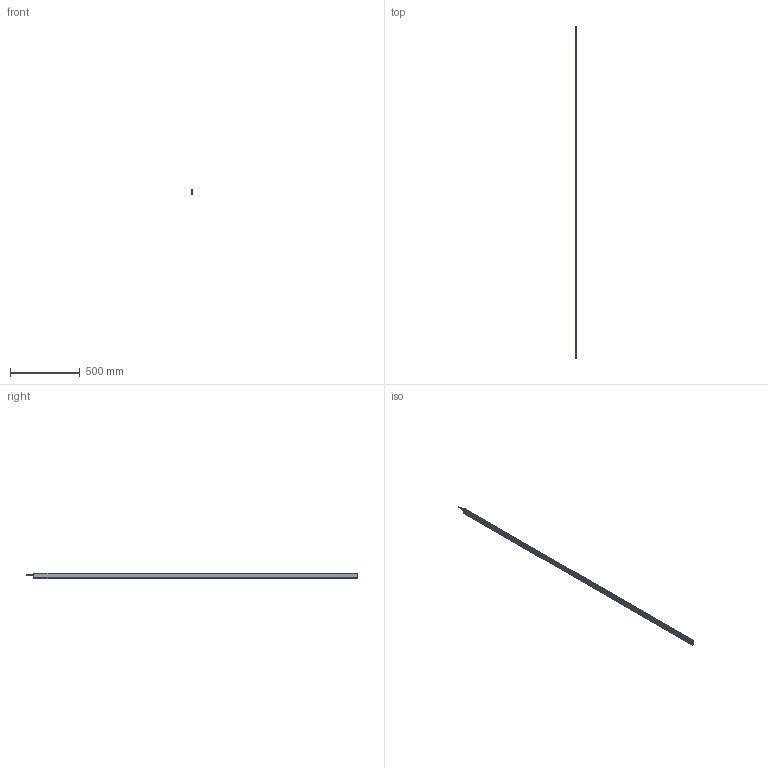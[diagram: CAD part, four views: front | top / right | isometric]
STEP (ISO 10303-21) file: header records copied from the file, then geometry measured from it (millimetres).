
FILE_DESCRIPTION (( 'STEP AP214' ), '1' );
FILE_NAME ('ILG-L-K2-2320mm.STEP', '2017-07-11T08:34:56', ( '' ), ( '' ), 'SwSTEP 2.0', 'SolidWorks 2016', '' );
FILE_SCHEMA (( 'AUTOMOTIVE_DESIGN' ));
Length unit declared in the file: millimetre
Products named in the file (1): ILG-L-K2-2320mm
Bounding box: 9 x 2374.5 x 40.71 mm (x, y, z)
Surface area: 457446.9 mm2 (no closed solid volume)
Topology: 0 solids, 13 shells, 681 faces, 1786 edges, 1135 vertices
Faces by surface type: cylinder 288, plane 255, cone 90, bspline 32, torus 16
Entity records: 30628 total; most frequent: CARTESIAN_POINT 6489, ORIENTED_EDGE 3525, DIRECTION 3406, EDGE_CURVE 1770, AXIS2_PLACEMENT_3D 1301, VERTEX_POINT 1135, LINE 804, VECTOR 804
